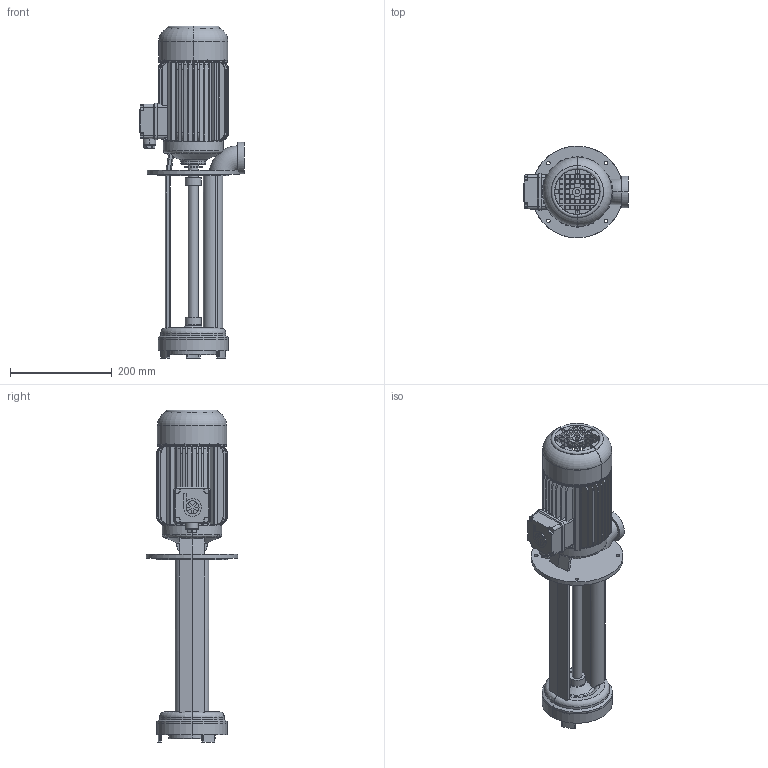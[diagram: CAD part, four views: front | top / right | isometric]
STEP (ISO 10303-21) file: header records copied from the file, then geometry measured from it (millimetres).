
FILE_DESCRIPTION(('no description'),'unknown implementation level');
FILE_NAME('TA600_360_9.stp',' ',('K. H. Brinkmann GmbH & Co. KG'),('CADClick - KiM GmbH - www.kimweb.de'),'unknown preprocess','ACIS','unknown authorization');
FILE_SCHEMA(('automotive_design'));
Length unit declared in the file: millimetre
Products named in the file (5): 1; 2; 3; 4; 5
Bounding box: 205 x 180 x 650.99 mm (x, y, z)
Volume: 4289389 mm3; surface area: 594272.1 mm2
Topology: 5 solids, 5 shells, 899 faces, 2472 edges, 1604 vertices
Faces by surface type: plane 460, cylinder 283, torus 112, cone 42, revolution 2
Entity records: 63583 total; most frequent: CARTESIAN_POINT 12978, STYLED_ITEM 4980, PRESENTATION_STYLE_ASSIGNMENT 4980, COLOUR_RGB 4980, ORIENTED_EDGE 4944, DIRECTION 4639, EDGE_CURVE 2472, CURVE_STYLE 2472
